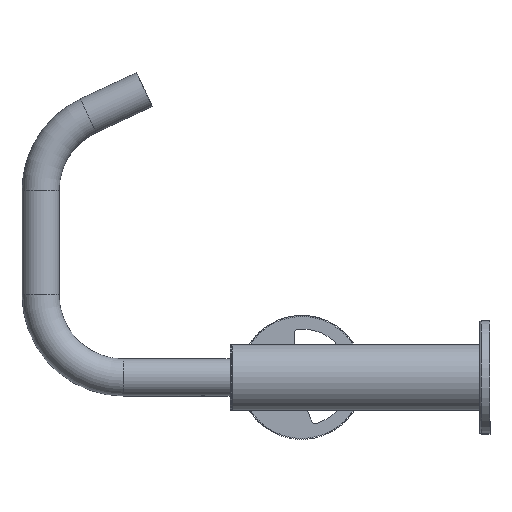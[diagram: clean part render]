
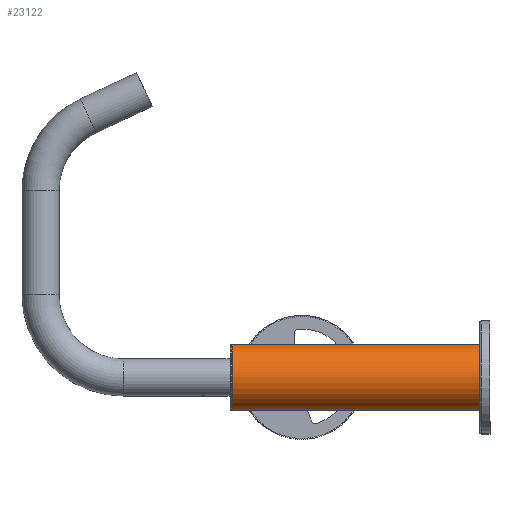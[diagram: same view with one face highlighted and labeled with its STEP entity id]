
A CAD part, left-side view. The second image highlights one B-rep face of the part: STEP entity #23122.
In plain terms, the highlighted cylindrical face has radius 16 mm (diameter 32 mm), a partial arc.
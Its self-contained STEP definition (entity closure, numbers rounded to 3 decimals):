
#1705 = CARTESIAN_POINT ( 'NONE',  ( 0., 0., 0. ) ) ;
#1891 = CYLINDRICAL_SURFACE ( 'NONE', #46182, 16. ) ;
#3392 = CARTESIAN_POINT ( 'NONE',  ( -16., 0., 0. ) ) ;
#5768 = EDGE_CURVE ( 'NONE', #19628, #28880, #22052, .T. ) ;
#10924 = CARTESIAN_POINT ( 'NONE',  ( -16., 0., 120. ) ) ;
#14508 = ORIENTED_EDGE ( 'NONE', *, *, #5768, .F. ) ;
#14740 = EDGE_LOOP ( 'NONE', ( #14508, #15989, #33698, #57556 ) ) ;
#15006 = CARTESIAN_POINT ( 'NONE',  ( 16., 0., 0. ) ) ;
#15989 = ORIENTED_EDGE ( 'NONE', *, *, #54583, .F. ) ;
#18224 = CARTESIAN_POINT ( 'NONE',  ( 16., 0., 120. ) ) ;
#19628 = VERTEX_POINT ( 'NONE', #18224 ) ;
#20572 = AXIS2_PLACEMENT_3D ( 'NONE', #40662, #20912, #34725 ) ;
#20912 = DIRECTION ( 'NONE',  ( 0., 0., 1. ) ) ;
#20984 = DIRECTION ( 'NONE',  ( -1., 0., 0. ) ) ;
#21557 = CIRCLE ( 'NONE', #20572, 16. ) ;
#22052 = LINE ( 'NONE', #32406, #45788 ) ;
#23122 = ADVANCED_FACE ( 'NONE', ( #49216 ), #1891, .T. ) ;
#24709 = VERTEX_POINT ( 'NONE', #3392 ) ;
#27998 = EDGE_CURVE ( 'NONE', #58959, #24709, #43829, .T. ) ;
#28797 = DIRECTION ( 'NONE',  ( 0., 0., -1. ) ) ;
#28880 = VERTEX_POINT ( 'NONE', #15006 ) ;
#31080 = EDGE_CURVE ( 'NONE', #24709, #28880, #52202, .T. ) ;
#32406 = CARTESIAN_POINT ( 'NONE',  ( 16., 0., 120. ) ) ;
#32839 = VECTOR ( 'NONE', #28797, 1000. ) ;
#33698 = ORIENTED_EDGE ( 'NONE', *, *, #27998, .T. ) ;
#34725 = DIRECTION ( 'NONE',  ( 1., 0., 0. ) ) ;
#40662 = CARTESIAN_POINT ( 'NONE',  ( 0., 0., 120. ) ) ;
#41508 = DIRECTION ( 'NONE',  ( 0., 0., -1. ) ) ;
#43829 = LINE ( 'NONE', #10924, #32839 ) ;
#45447 = DIRECTION ( 'NONE',  ( 0., 0., -1. ) ) ;
#45788 = VECTOR ( 'NONE', #41508, 1000. ) ;
#46182 = AXIS2_PLACEMENT_3D ( 'NONE', #54251, #45447, #20984 ) ;
#49216 = FACE_OUTER_BOUND ( 'NONE', #14740, .T. ) ;
#49749 = CARTESIAN_POINT ( 'NONE',  ( -16., 0., 120. ) ) ;
#50266 = DIRECTION ( 'NONE',  ( 0., 0., 1. ) ) ;
#52202 = CIRCLE ( 'NONE', #60188, 16. ) ;
#54251 = CARTESIAN_POINT ( 'NONE',  ( 0., 0., 120. ) ) ;
#54583 = EDGE_CURVE ( 'NONE', #58959, #19628, #21557, .T. ) ;
#54665 = DIRECTION ( 'NONE',  ( 1., 0., 0. ) ) ;
#57556 = ORIENTED_EDGE ( 'NONE', *, *, #31080, .T. ) ;
#58959 = VERTEX_POINT ( 'NONE', #49749 ) ;
#60188 = AXIS2_PLACEMENT_3D ( 'NONE', #1705, #50266, #54665 ) ;
